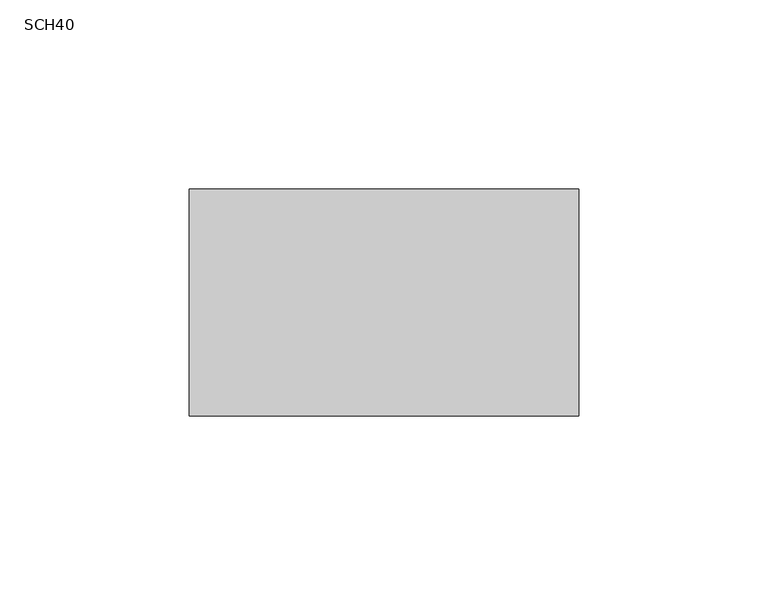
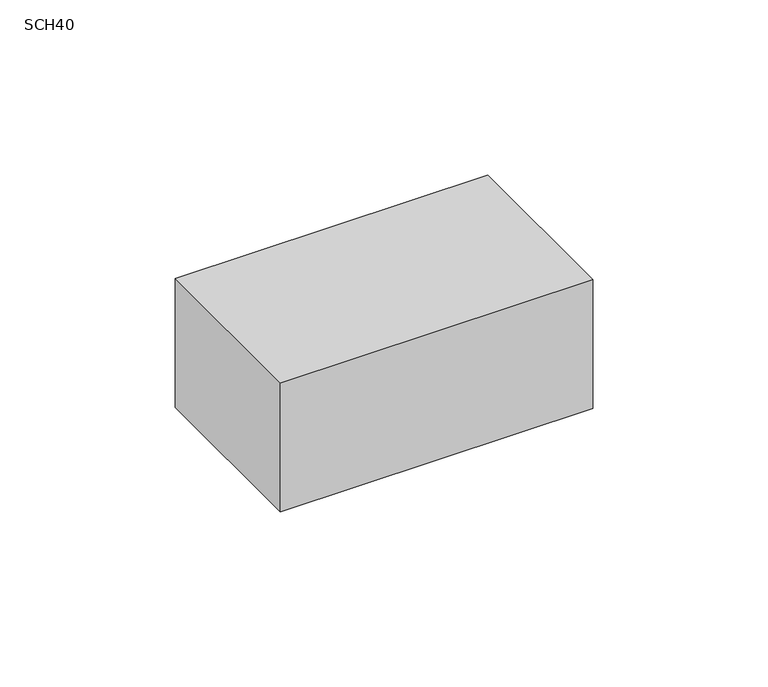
"""IFC4 building model written with IfcOpenShell, lengths in millimetres: pipe fitting geometry, PavcoWavin_PipeFittings_CajaSencilla_Codo : SCH40."""

from ifc_helpers import new_model, si_unit, frame, origin, place, context, project, spatial, polyline, outline, extrude, source, transform, mapped, element, save


def sch40_504ce7d9(model_context):
    return source(origin(), model_context, "Body", "SweptSolid", [
        extrude(outline(polyline([(51.5, -30.0), (-51.5, -30.0), (-51.5, 30.0), (51.5, 30.0), (51.5, -30.0)])), frame((0.0, 0.0, -22.5), z_axis=(0.0, 0.0, 1.0), x_axis=(1.0, 0.0, 0.0)), (0.0, 0.0, 1.0), 45.0),
    ])


if __name__ == "__main__":
    model = new_model("IFC4")
    model_context = context("Model", 3, world=origin())
    ifc_project = project(units=[si_unit("LENGTHUNIT", "METRE", prefix="MILLI")], contexts=[model_context])
    site = spatial("IfcSite", under=ifc_project)
    building = spatial("IfcBuilding", under=site)
    placement = place(None, origin())
    sch40_shape = sch40_504ce7d9(model_context)
    element("IfcPipeFitting", 1, ObjectType="PavcoWavin_PipeFittings_CajaSencilla_Codo : SCH40", at=placement, inside=building, context=model_context, shape_type="MappedRepresentation", body=[
        mapped(sch40_shape, transform((0.0, 0.0, 0.0), x_axis=(1.0, 0.0, 0.0), y_axis=(0.0, 1.0, 0.0), z_axis=(0.0, 0.0, 1.0))),
    ])
    save(model, "model.ifc")
